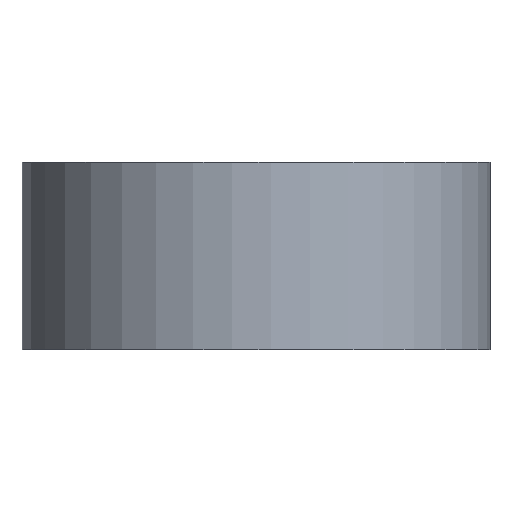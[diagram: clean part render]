
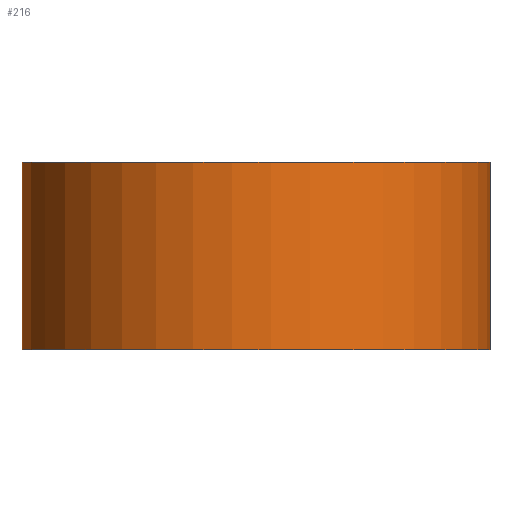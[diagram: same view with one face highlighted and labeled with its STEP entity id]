
A CAD part, front view. The second image highlights one B-rep face of the part: STEP entity #216.
In plain terms, the highlighted cylindrical face has radius 1.25 mm (diameter 2.5 mm), a partial arc.
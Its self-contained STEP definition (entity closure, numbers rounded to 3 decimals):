
#26=FACE_OUTER_BOUND('',#38,.T.);
#38=EDGE_LOOP('',(#157,#158,#159,#160));
#56=LINE('',#365,#70);
#57=LINE('',#371,#71);
#70=VECTOR('',#292,10.);
#71=VECTOR('',#299,10.);
#83=CIRCLE('',#253,1.25);
#84=CIRCLE('',#254,1.25);
#101=VERTEX_POINT('',#362);
#102=VERTEX_POINT('',#364);
#103=VERTEX_POINT('',#368);
#104=VERTEX_POINT('',#370);
#123=EDGE_CURVE('',#101,#102,#56,.T.);
#125=EDGE_CURVE('',#101,#103,#83,.T.);
#126=EDGE_CURVE('',#104,#103,#57,.T.);
#127=EDGE_CURVE('',#102,#104,#84,.T.);
#157=ORIENTED_EDGE('',*,*,#123,.F.);
#158=ORIENTED_EDGE('',*,*,#125,.T.);
#159=ORIENTED_EDGE('',*,*,#126,.F.);
#160=ORIENTED_EDGE('',*,*,#127,.F.);
#207=CYLINDRICAL_SURFACE('',#252,1.25);
#216=ADVANCED_FACE('',(#26),#207,.T.);
#252=AXIS2_PLACEMENT_3D('',#367,#295,#296);
#253=AXIS2_PLACEMENT_3D('',#369,#297,#298);
#254=AXIS2_PLACEMENT_3D('',#372,#300,#301);
#292=DIRECTION('',(0.,0.,1.));
#295=DIRECTION('center_axis',(0.,0.,1.));
#296=DIRECTION('ref_axis',(0.065,-0.998,0.));
#297=DIRECTION('center_axis',(0.,0.,1.));
#298=DIRECTION('ref_axis',(1.,0.,0.));
#299=DIRECTION('',(0.,0.,-1.));
#300=DIRECTION('center_axis',(0.,0.,1.));
#301=DIRECTION('ref_axis',(1.,0.,0.));
#362=CARTESIAN_POINT('',(6.513,-10.585,0.));
#364=CARTESIAN_POINT('',(6.513,-10.585,1.));
#365=CARTESIAN_POINT('',(6.513,-10.585,0.));
#367=CARTESIAN_POINT('Origin',(7.571,-11.251,0.));
#368=CARTESIAN_POINT('',(8.532,-10.453,0.));
#369=CARTESIAN_POINT('Origin',(7.571,-11.251,0.));
#370=CARTESIAN_POINT('',(8.532,-10.453,1.));
#371=CARTESIAN_POINT('',(8.532,-10.453,0.));
#372=CARTESIAN_POINT('Origin',(7.571,-11.251,1.));
